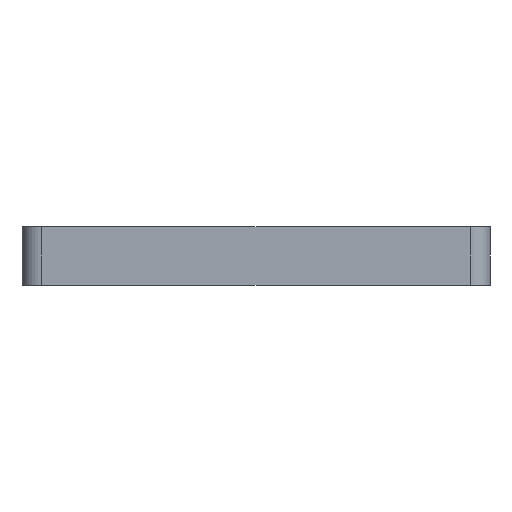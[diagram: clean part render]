
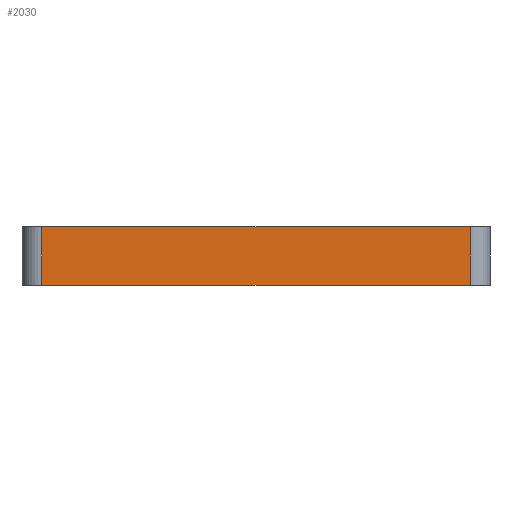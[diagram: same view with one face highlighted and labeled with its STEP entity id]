
A CAD part, left-side view. The second image highlights one B-rep face of the part: STEP entity #2030.
In plain terms, the highlighted planar face has unit normal (-1, 0, 0).
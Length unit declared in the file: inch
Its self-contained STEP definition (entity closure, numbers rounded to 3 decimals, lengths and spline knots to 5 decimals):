
#71 = CARTESIAN_POINT ( 'NONE',  ( -1.25, -1.5, 0. ) ) ;
#120 = CARTESIAN_POINT ( 'NONE',  ( -1.25, 1.375, 0. ) ) ;
#164 = VECTOR ( 'NONE', #1568, 39.37008 ) ;
#201 = VECTOR ( 'NONE', #2056, 39.37008 ) ;
#343 = EDGE_CURVE ( 'NONE', #1361, #532, #1210, .T. ) ;
#344 = CARTESIAN_POINT ( 'NONE',  ( -1.25, -1.375, 0. ) ) ;
#441 = VECTOR ( 'NONE', #519, 39.37008 ) ;
#449 = EDGE_CURVE ( 'NONE', #532, #1527, #1334, .T. ) ;
#469 = ORIENTED_EDGE ( 'NONE', *, *, #1716, .F. ) ;
#516 = CARTESIAN_POINT ( 'NONE',  ( -1.25, 1.375, 0. ) ) ;
#519 = DIRECTION ( 'NONE',  ( 0., 0., -1. ) ) ;
#532 = VERTEX_POINT ( 'NONE', #120 ) ;
#534 = AXIS2_PLACEMENT_3D ( 'NONE', #1111, #694, #1751 ) ;
#619 = PLANE ( 'NONE',  #534 ) ;
#641 = LINE ( 'NONE', #1478, #164 ) ;
#694 = DIRECTION ( 'NONE',  ( -1., 0., 0. ) ) ;
#700 = EDGE_CURVE ( 'NONE', #1962, #1361, #641, .T. ) ;
#765 = LINE ( 'NONE', #2133, #201 ) ;
#909 = ORIENTED_EDGE ( 'NONE', *, *, #343, .T. ) ;
#1021 = DIRECTION ( 'NONE',  ( 0., 1., 0. ) ) ;
#1111 = CARTESIAN_POINT ( 'NONE',  ( -1.25, -1.5, 0. ) ) ;
#1118 = FACE_OUTER_BOUND ( 'NONE', #1926, .T. ) ;
#1210 = LINE ( 'NONE', #71, #1257 ) ;
#1257 = VECTOR ( 'NONE', #1021, 39.37008 ) ;
#1334 = LINE ( 'NONE', #516, #441 ) ;
#1361 = VERTEX_POINT ( 'NONE', #344 ) ;
#1363 = ORIENTED_EDGE ( 'NONE', *, *, #449, .T. ) ;
#1478 = CARTESIAN_POINT ( 'NONE',  ( -1.25, -1.375, 0. ) ) ;
#1527 = VERTEX_POINT ( 'NONE', #1841 ) ;
#1568 = DIRECTION ( 'NONE',  ( 0., 0., 1. ) ) ;
#1716 = EDGE_CURVE ( 'NONE', #1962, #1527, #765, .T. ) ;
#1733 = ORIENTED_EDGE ( 'NONE', *, *, #700, .T. ) ;
#1751 = DIRECTION ( 'NONE',  ( 0., 0., 1. ) ) ;
#1841 = CARTESIAN_POINT ( 'NONE',  ( -1.25, 1.375, -0.375 ) ) ;
#1926 = EDGE_LOOP ( 'NONE', ( #909, #1363, #469, #1733 ) ) ;
#1962 = VERTEX_POINT ( 'NONE', #2069 ) ;
#2030 = ADVANCED_FACE ( 'NONE', ( #1118 ), #619, .T. ) ;
#2056 = DIRECTION ( 'NONE',  ( 0., 1., 0. ) ) ;
#2069 = CARTESIAN_POINT ( 'NONE',  ( -1.25, -1.375, -0.375 ) ) ;
#2133 = CARTESIAN_POINT ( 'NONE',  ( -1.25, -1.5, -0.375 ) ) ;
